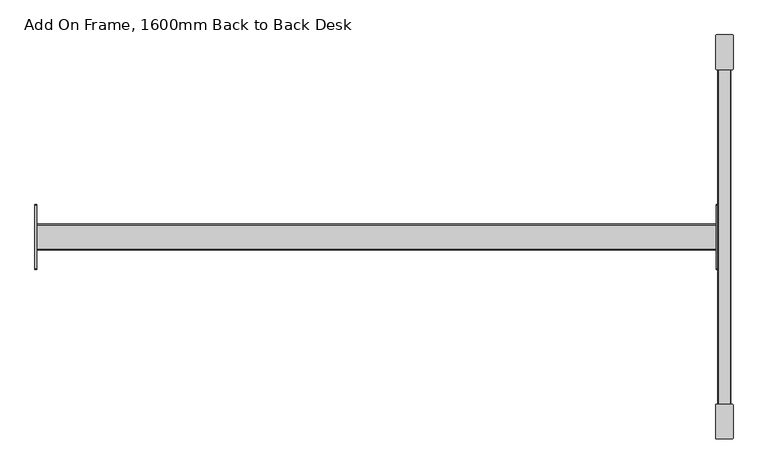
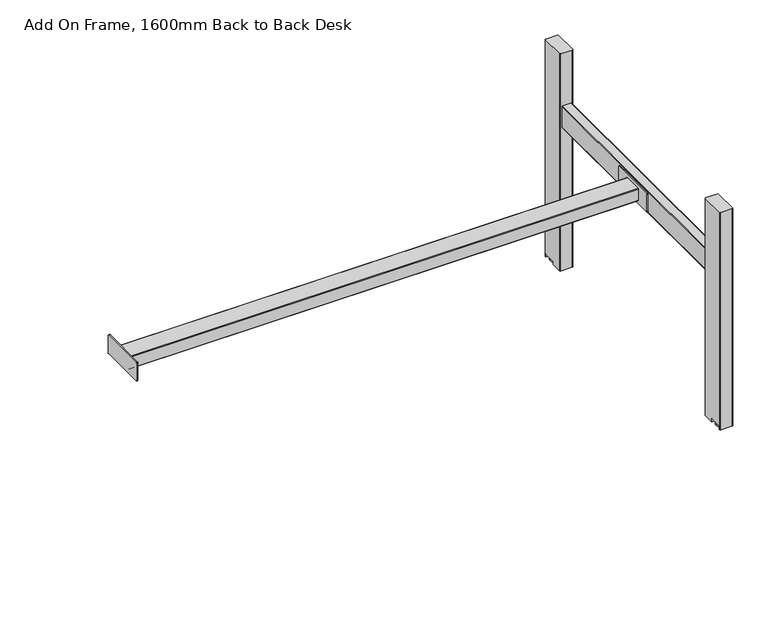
"""IFC4 building model written with IfcOpenShell, lengths in millimetres: furniture geometry, DBLTD_TheSenatorGroup_OffcDsks_Workbase_BackToBack_AddOnFrame : Add On Frame, 1600mm Back to Back Desk."""

import ifcopenshell
import ifcopenshell.guid

model = None  # the IFC model being written
_history = None  # IfcOwnerHistory: only IFC2X3 demands one
_inside = {}  # id of a spatial element -> (the spatial element, [elements in it])
_under = {}  # id of a project, library or spatial element -> (it, [spatial elements below it])
_declared = {}  # id of a project -> (the project, [libraries it declares])
_typed = {}  # id of a type object -> (the type object, [elements of that type])
_made_of = {}  # id of a material, layer set ... -> (it, [elements and type objects made of it])


def new_model(schema):
    """Start an empty IFC model of exactly this schema.

    Asked for "IFC4X3", IfcOpenShell would pick the latest addendum, in which some entities
    have other attributes; the version numbers below select the first issue.
    IFC2X3 requires an IfcOwnerHistory on every rooted entity: one is made here for all.
    """
    global model, _history
    if schema == "IFC4X3":
        model = ifcopenshell.file(schema_version=(4, 3, 0, 0))
    else:
        model = ifcopenshell.file(schema=schema)
    _inside.clear()
    _under.clear()
    _declared.clear()
    _typed.clear()
    _made_of.clear()
    _history = None
    if model.schema == "IFC2X3":
        org = make("IfcOrganization", Name="unknown")
        user = make(
            "IfcPersonAndOrganization",
            ThePerson=make("IfcPerson", FamilyName="unknown"),
            TheOrganization=org,
        )
        app = make(
            "IfcApplication",
            ApplicationDeveloper=org,
            Version="unknown",
            ApplicationFullName="unknown",
            ApplicationIdentifier="unknown",
        )
        _history = make(
            "IfcOwnerHistory",
            OwningUser=user,
            OwningApplication=app,
            ChangeAction="ADDED",
            CreationDate=0,
        )
    return model


def make(cls, **values):
    """One entity of the class cls with the attributes given. An attribute that is None is left unset."""
    return model.create_entity(
        cls, **{name: value for name, value in values.items() if value is not None}
    )


def rooted(cls, **values):
    """An entity with a GlobalId (a new one), such as an element, a storey or a relation."""
    return make(cls, GlobalId=ifcopenshell.guid.new(), OwnerHistory=_history, **values)


def si_unit(unit_type, name, prefix=None):
    """IfcSIUnit, for example si_unit("LENGTHUNIT", "METRE", prefix="MILLI")."""
    return make("IfcSIUnit", UnitType=unit_type, Prefix=prefix, Name=name)


def assignment(units):
    """IfcUnitAssignment: the units of a project."""
    return None if units is None else make("IfcUnitAssignment", Units=units)


def point(xyz):
    """IfcCartesianPoint."""
    return None if xyz is None else make("IfcCartesianPoint", Coordinates=xyz)


def direction(xyz):
    """IfcDirection."""
    return None if xyz is None else make("IfcDirection", DirectionRatios=xyz)


def frame(location, z_axis=None, x_axis=None):
    """IfcAxis2Placement3D, a coordinate frame: its origin and axes. An axis left out is left unset."""
    return make(
        "IfcAxis2Placement3D",
        Location=point(location),
        Axis=direction(z_axis),
        RefDirection=direction(x_axis),
    )


def frame_2d(location, x_axis=None):
    """IfcAxis2Placement2D, a coordinate frame in the plane: its origin and x axis."""
    return make(
        "IfcAxis2Placement2D", Location=point(location), RefDirection=direction(x_axis)
    )


def origin():
    """The frame at (0, 0, 0) with its axes left unset."""
    return frame((0.0, 0.0, 0.0))


def origin_with_axes():
    """The frame at (0, 0, 0) with the z axis (0, 0, 1) and the x axis (1, 0, 0) written out."""
    return frame((0.0, 0.0, 0.0), z_axis=(0.0, 0.0, 1.0), x_axis=(1.0, 0.0, 0.0))


def place(relative_to, where):
    """IfcLocalPlacement: puts the frame where relative to a parent placement (None: the world)."""
    return make(
        "IfcLocalPlacement", PlacementRelTo=relative_to, RelativePlacement=where
    )


def context(
    kind, dimensions, precision=None, world=None, true_north=None, identifier=None
):
    """IfcGeometricRepresentationContext, for example the 3D "Model" context."""
    return make(
        "IfcGeometricRepresentationContext",
        ContextIdentifier=identifier,
        ContextType=kind,
        CoordinateSpaceDimension=dimensions,
        Precision=precision,
        WorldCoordinateSystem=world,
        TrueNorth=true_north,
    )


def project(units=None, contexts=None):
    """IfcProject with its units and contexts."""
    return rooted(
        "IfcProject",
        Name="project",
        RepresentationContexts=contexts,
        UnitsInContext=assignment(units),
    )


def spatial(cls, under=None, at=None, **own):
    """A site, building, storey or space (cls), placed at a placement, below another one or the project."""
    s = rooted(cls, ObjectPlacement=at, **own)
    if under is not None:
        _under.setdefault(under.id(), (under, []))[1].append(s)
    return s


def polyline(points):
    """IfcPolyline through the points."""
    return make("IfcPolyline", Points=[point(p) for p in points])


def circle_curve(where, radius):
    """IfcCircle in the frame where."""
    return make("IfcCircle", Position=where, Radius=radius)


def trimmed(basis, trim1, trim2, sense, master):
    """IfcTrimmedCurve: the piece of a basis curve between two trims."""
    return make(
        "IfcTrimmedCurve",
        BasisCurve=basis,
        Trim1=trim1,
        Trim2=trim2,
        SenseAgreement=sense,
        MasterRepresentation=master,
    )


def segment(curve, same_sense, transition):
    """IfcCompositeCurveSegment."""
    return make(
        "IfcCompositeCurveSegment",
        Transition=transition,
        SameSense=same_sense,
        ParentCurve=curve,
    )


def composite_curve(segments, self_intersect=None):
    """IfcCompositeCurve: segments joined end to end."""
    return make("IfcCompositeCurve", Segments=segments, SelfIntersect=self_intersect)


def outline(outer, holes=None, kind="AREA"):
    """IfcArbitraryClosedProfileDef: a profile drawn as a closed curve; with holes, ...WithVoids."""
    if holes is None:
        return make("IfcArbitraryClosedProfileDef", ProfileType=kind, OuterCurve=outer)
    return make(
        "IfcArbitraryProfileDefWithVoids",
        ProfileType=kind,
        OuterCurve=outer,
        InnerCurves=holes,
    )


def extrude(swept, where, along, depth):
    """IfcExtrudedAreaSolid: the profile swept, set in the frame where, extruded along a direction by depth."""
    return make(
        "IfcExtrudedAreaSolid",
        SweptArea=swept,
        Position=where,
        ExtrudedDirection=direction(along),
        Depth=depth,
    )


def shape(context_of_items, identifier, shape_type, items):
    """IfcShapeRepresentation: the items that make up one representation, for example the "Body"."""
    return make(
        "IfcShapeRepresentation",
        ContextOfItems=context_of_items,
        RepresentationIdentifier=identifier,
        RepresentationType=shape_type,
        Items=items,
    )


def source(mapping_origin, context_of_items, identifier, shape_type, items):
    """IfcRepresentationMap: a shape defined once, which mapped items show again and again."""
    return make(
        "IfcRepresentationMap",
        MappingOrigin=mapping_origin,
        MappedRepresentation=shape(context_of_items, identifier, shape_type, items),
    )


def transform(
    local_origin,
    x_axis=None,
    y_axis=None,
    z_axis=None,
    scale=None,
    scale2=None,
    scale3=None,
    uniform=True,
):
    """IfcCartesianTransformationOperator3D, or its non-uniform kind. x_axis, y_axis, z_axis: its Axis1, 2, 3."""
    if uniform:
        return make(
            "IfcCartesianTransformationOperator3D",
            Axis1=direction(x_axis),
            Axis2=direction(y_axis),
            LocalOrigin=point(local_origin),
            Scale=scale,
            Axis3=direction(z_axis),
        )
    return make(
        "IfcCartesianTransformationOperator3DnonUniform",
        Axis1=direction(x_axis),
        Axis2=direction(y_axis),
        LocalOrigin=point(local_origin),
        Scale=scale,
        Axis3=direction(z_axis),
        Scale2=scale2,
        Scale3=scale3,
    )


def mapped(mapping_source, mapping_target):
    """IfcMappedItem: shows the shape of a source again, moved by a transform."""
    return make(
        "IfcMappedItem", MappingSource=mapping_source, MappingTarget=mapping_target
    )


def made_of(thing, what):
    """Note that an element or type object is made of a material, layer set ...; save() writes the relation."""
    if what is not None:
        _made_of.setdefault(what.id(), (what, []))[1].append(thing)
    return thing


def element(
    cls,
    number,
    at=None,
    inside=None,
    cuts=None,
    type_object=None,
    material=None,
    context=None,
    identifier="Body",
    shape_type=None,
    held_by="IfcProductDefinitionShape",
    body=None,
    shapes=None,
    **own,
):
    """One element of the class cls, such as IfcWall. Its Tag is "e" and its number.

    at: its placement. inside: the storey or other place that contains it. cuts: it is an
    opening in that element (IfcRelVoidsElement). A single representation is given by context,
    identifier, shape_type and body (its items); several are given by shapes. held_by: the class
    of the entity that holds the representations. save() writes the other relations.
    """
    e = rooted(cls, Tag="e%d" % number, ObjectPlacement=at, **own)
    if body is not None:
        shapes = [shape(context, identifier, shape_type, body)]
    if shapes is not None:
        e.Representation = make(held_by, Representations=shapes)
    if inside is not None:
        _inside.setdefault(inside.id(), (inside, []))[1].append(e)
    if cuts is not None:
        rooted(
            "IfcRelVoidsElement", RelatingBuildingElement=cuts, RelatedOpeningElement=e
        )
    if type_object is not None:
        _typed.setdefault(type_object.id(), (type_object, []))[1].append(e)
    return made_of(e, material)


def aggregate(whole, parts):
    """IfcRelAggregates: a whole, such as a stair, and the parts it consists of."""
    return rooted("IfcRelAggregates", RelatingObject=whole, RelatedObjects=parts)


def save(model, path):
    """Write the relations noted so far, then the file.

    IfcRelAggregates (storeys below a building ...), IfcRelContainedInSpatialStructure (elements
    in a storey), IfcRelDefinesByType, IfcRelAssociatesMaterial and IfcRelDeclares: one each for
    every whole, place, type object, material and project.
    """
    for whole, parts in _under.values():
        aggregate(whole, parts)
    for where, things in _inside.values():
        rooted(
            "IfcRelContainedInSpatialStructure",
            RelatedElements=things,
            RelatingStructure=where,
        )
    for kind, things in _typed.values():
        rooted("IfcRelDefinesByType", RelatedObjects=things, RelatingType=kind)
    for what, things in _made_of.values():
        rooted("IfcRelAssociatesMaterial", RelatedObjects=things, RelatingMaterial=what)
    for by, libraries in _declared.values():
        rooted("IfcRelDeclares", RelatingContext=by, RelatedDefinitions=libraries)
    model.write(path)


def plane_surface(at):
    """IfcPlane: the flat surface through the origin of the frame at, square to its z axis."""
    return make("IfcPlane", Position=at)


def cylinder_surface(at, radius):
    """IfcCylindricalSurface: all points at the distance radius from the z axis of the frame at."""
    return make("IfcCylindricalSurface", Position=at, Radius=radius)


def advanced_brep(points, edges, surfaces, faces):
    """IfcAdvancedBrep: a solid bounded by faces that lie on surfaces and meet in shared edges.

    An edge is (start, end): straight between two places in points (the first is 0);
    or (start, end, curve); or (start, end, curve, False) where it runs against its curve.
    A face is (place in surfaces, loops), or (place, loops, False) where it looks against
    its surface's normal. A loop lists edges by number (the first is 1), with a minus sign
    where the edge is run from its end to its start. The first loop is the outer one.
    """
    corners = [point(p) for p in points]
    vertices = [make("IfcVertexPoint", VertexGeometry=c) for c in corners]
    made = []
    for start, end, *more in edges:
        made.append(
            make(
                "IfcEdgeCurve",
                EdgeStart=vertices[start],
                EdgeEnd=vertices[end],
                EdgeGeometry=more[0] if more else make("IfcPolyline", Points=[corners[start], corners[end]]),
                SameSense=more[1] if len(more) > 1 else True,
            )
        )
    hull = []
    for where, loops, *sense in faces:
        bounds = []
        for j, loop in enumerate(loops):
            ring = [make("IfcOrientedEdge", EdgeElement=made[abs(k) - 1], Orientation=k > 0) for k in loop]
            bounds.append(
                make(
                    "IfcFaceOuterBound" if j == 0 else "IfcFaceBound",
                    Bound=make("IfcEdgeLoop", EdgeList=ring),
                    Orientation=True,
                )
            )
        hull.append(make("IfcAdvancedFace", Bounds=bounds, FaceSurface=surfaces[where], SameSense=sense[0] if sense else True))
    return make("IfcAdvancedBrep", Outer=make("IfcClosedShell", CfsFaces=hull))


def add_on_frame_1600mm_back_to_back_desk_692f1a0c(model_context):
    return source(origin(), model_context, "Body", "SolidModel", [
        advanced_brep(
        [(857.5233383, 1245.6110001, 11.0000074), (897.5, 1245.6110001, 11.0000074), (897.5, 1245.6110001, 0.0), (857.5233383, 1245.6110001, 0.0), (897.5, 1285.6110001, 11.0000074), (857.5233383, 1285.6110001, 11.0000074), (857.5233383, 1285.6110001, 0.0), (897.5, 1285.6110001, 0.0), (897.5, 1288.100174, 704.9999237), (895.5, 1290.100174, 704.9999237), (859.5233383, 1290.100174, 704.9999237), (857.5233383, 1288.100174, 704.9999237), (857.5233383, 1212.100174, 704.9999237), (859.5233383, 1210.100174, 704.9999237), (895.5, 1210.100174, 704.9999237), (897.5, 1212.100174, 704.9999237), (897.5, 1212.100174, 0.0), (895.5, 1210.100174, 0.0), (859.5233383, 1210.100174, 0.0), (857.5233383, 1212.100174, 0.0), (857.5233383, 1288.100174, 0.0), (859.5233383, 1290.100174, 0.0), (895.5, 1290.100174, 0.0), (897.5, 1288.100174, 0.0)],
        [
            (0, 1),
            (1, 2),
            (2, 3),
            (3, 0),
            (4, 5),
            (5, 6),
            (6, 7),
            (7, 4),
            (0, 5),
            (4, 1),
            (8, 9, circle_curve(frame((895.5, 1288.100174, 704.9999237), z_axis=(0.0, 0.0, 1.0), x_axis=(-1.0, 0.0, 0.0)), 2.0)),
            (9, 10),
            (10, 11, circle_curve(frame((859.5233383, 1288.100174, 704.9999237), z_axis=(0.0, 0.0, 1.0), x_axis=(-1.0, 0.0, 0.0)), 2.0)),
            (11, 12),
            (12, 13, circle_curve(frame((859.5233383, 1212.100174, 704.9999237), z_axis=(0.0, 0.0, 1.0), x_axis=(-1.0, 0.0, 0.0)), 2.0)),
            (13, 14),
            (14, 15, circle_curve(frame((895.5, 1212.100174, 704.9999237), z_axis=(0.0, 0.0, 1.0), x_axis=(-1.0, 0.0, 0.0)), 2.0)),
            (15, 8),
            (16, 17, circle_curve(frame((895.5, 1212.100174, 0.0), z_axis=(0.0, 0.0, -1.0), x_axis=(-1.0, 0.0, 0.0)), 2.0)),
            (17, 18),
            (18, 19, circle_curve(frame((859.5233383, 1212.100174, 0.0), z_axis=(0.0, 0.0, -1.0), x_axis=(-1.0, 0.0, 0.0)), 2.0)),
            (19, 3),
            (2, 16),
            (20, 21, circle_curve(frame((859.5233383, 1288.100174, 0.0), z_axis=(0.0, 0.0, -1.0), x_axis=(-1.0, 0.0, 0.0)), 2.0)),
            (21, 22),
            (22, 23, circle_curve(frame((895.5, 1288.100174, 0.0), z_axis=(0.0, 0.0, -1.0), x_axis=(-1.0, 0.0, 0.0)), 2.0)),
            (23, 7),
            (6, 20),
            (15, 16),
            (23, 8),
            (14, 17),
            (13, 18),
            (12, 19),
            (11, 20),
            (10, 21),
            (9, 22),
        ],
        [
            plane_surface(frame((897.5, 1245.6110001, 11.0000074), z_axis=(0.0, 1.0, 0.0), x_axis=(-1.0, 0.0, 0.0))),
            plane_surface(frame((897.5, 1285.6110001, 0.0), z_axis=(0.0, -1.0, 0.0), x_axis=(-1.0, 0.0, 0.0))),
            plane_surface(frame((897.5, 1285.6110001, 11.0000074), z_axis=(0.0, 0.0, -1.0), x_axis=(-1.0, 0.0, 0.0))),
            plane_surface(frame((893.5, 1288.100174, 704.9999237), z_axis=(0.0, 0.0, 1.0), x_axis=(0.0, -1.0, 0.0))),
            plane_surface(frame((893.5, 1288.100174, 0.0), z_axis=(0.0, 0.0, -1.0), x_axis=(0.0, 1.0, 0.0))),
            plane_surface(frame((897.5, 1212.100174, 704.9999237), z_axis=(1.0, 0.0, 0.0), x_axis=(0.0, 0.0, -1.0))),
            cylinder_surface(frame((895.5, 1212.100174, 0.0), z_axis=(0.0, 0.0, 1.0), x_axis=(-1.0, 0.0, 0.0)), 2.0),
            plane_surface(frame((859.5233383, 1210.100174, 704.9999237), z_axis=(0.0, -1.0, 0.0), x_axis=(0.0, 0.0, -1.0))),
            cylinder_surface(frame((859.5233383, 1212.100174, 0.0), z_axis=(0.0, 0.0, 1.0), x_axis=(-1.0, 0.0, 0.0)), 2.0),
            plane_surface(frame((857.5233383, 1288.100174, 704.9999237), z_axis=(-1.0, 0.0, 0.0), x_axis=(0.0, 0.0, -1.0))),
            cylinder_surface(frame((859.5233383, 1288.100174, 0.0), z_axis=(0.0, 0.0, 1.0), x_axis=(-1.0, 0.0, 0.0)), 2.0),
            plane_surface(frame((895.5, 1290.100174, 704.9999237), z_axis=(0.0, 1.0, 0.0), x_axis=(0.0, 0.0, -1.0))),
            cylinder_surface(frame((895.5, 1288.100174, 0.0), z_axis=(0.0, 0.0, 1.0), x_axis=(-1.0, 0.0, 0.0)), 2.0),
        ],
        [
            (0, [[1, 2, 3, 4]]),
            (1, [[5, 6, 7, 8]]),
            (2, [[-1, 9, -5, 10]]),
            (3, [[11, 12, 13, 14, 15, 16, 17, 18]]),
            (4, [[19, 20, 21, 22, -3, 23]]),
            (4, [[24, 25, 26, 27, -7, 28]]),
            (5, [[-18, 29, -23, -2, -10, -8, -27, 30]]),
            (6, [[-17, 31, -19, -29]]),
            (7, [[-16, 32, -20, -31]]),
            (8, [[-15, 33, -21, -32]]),
            (9, [[-14, 34, -28, -6, -9, -4, -22, -33]]),
            (10, [[-13, 35, -24, -34]]),
            (11, [[-12, 36, -25, -35]]),
            (12, [[-11, -30, -26, -36]]),
        ],
    ),
        advanced_brep(
        [(857.5233383, 404.5893478, 11.0000074), (897.5, 404.5893478, 11.0000074), (897.5, 364.5893478, 11.0000074), (857.5233383, 364.5893478, 11.0000074), (897.5, 364.5893478, 0.0), (857.5233383, 364.5893478, 0.0), (857.5233383, 404.5893478, 0.0), (897.5, 404.5893478, 0.0), (897.5, 362.100174, 704.9999237), (897.5, 438.100174, 704.9999237), (895.5, 440.100174, 704.9999237), (859.5233383, 440.100174, 704.9999237), (857.5233383, 438.100174, 704.9999237), (857.5233383, 362.100174, 704.9999237), (859.5233383, 360.100174, 704.9999237), (895.5, 360.100174, 704.9999237), (897.5, 362.100174, 0.0), (895.5, 360.100174, 0.0), (859.5233383, 360.100174, 0.0), (857.5233383, 362.100174, 0.0), (857.5233383, 438.100174, 0.0), (859.5233383, 440.100174, 0.0), (895.5, 440.100174, 0.0), (897.5, 438.100174, 0.0)],
        [
            (0, 1),
            (1, 2),
            (2, 3),
            (3, 0),
            (2, 4),
            (4, 5),
            (5, 3),
            (0, 6),
            (6, 7),
            (7, 1),
            (8, 9),
            (9, 10, circle_curve(frame((895.5, 438.100174, 704.9999237), z_axis=(0.0, 0.0, 1.0), x_axis=(-1.0, 0.0, 0.0)), 2.0)),
            (10, 11),
            (11, 12, circle_curve(frame((859.5233383, 438.100174, 704.9999237), z_axis=(0.0, 0.0, 1.0), x_axis=(-1.0, 0.0, 0.0)), 2.0)),
            (12, 13),
            (13, 14, circle_curve(frame((859.5233383, 362.100174, 704.9999237), z_axis=(0.0, 0.0, 1.0), x_axis=(-1.0, 0.0, 0.0)), 2.0)),
            (14, 15),
            (15, 8, circle_curve(frame((895.5, 362.100174, 704.9999237), z_axis=(0.0, 0.0, 1.0), x_axis=(-1.0, 0.0, 0.0)), 2.0)),
            (16, 17, circle_curve(frame((895.5, 362.100174, 0.0), z_axis=(0.0, 0.0, -1.0), x_axis=(-1.0, 0.0, 0.0)), 2.0)),
            (17, 18),
            (18, 19, circle_curve(frame((859.5233383, 362.100174, 0.0), z_axis=(0.0, 0.0, -1.0), x_axis=(-1.0, 0.0, 0.0)), 2.0)),
            (19, 5),
            (4, 16),
            (20, 21, circle_curve(frame((859.5233383, 438.100174, 0.0), z_axis=(0.0, 0.0, -1.0), x_axis=(-1.0, 0.0, 0.0)), 2.0)),
            (21, 22),
            (22, 23, circle_curve(frame((895.5, 438.100174, 0.0), z_axis=(0.0, 0.0, -1.0), x_axis=(-1.0, 0.0, 0.0)), 2.0)),
            (23, 7),
            (6, 20),
            (15, 17),
            (16, 8),
            (14, 18),
            (13, 19),
            (12, 20),
            (11, 21),
            (10, 22),
            (9, 23),
        ],
        [
            plane_surface(frame((897.5, 404.5893478, 11.0000074), z_axis=(0.0, 0.0, -1.0), x_axis=(-1.0, 0.0, 0.0))),
            plane_surface(frame((897.5, 364.5893478, 11.0000074), z_axis=(0.0, 1.0, 0.0), x_axis=(-1.0, 0.0, 0.0))),
            plane_surface(frame((897.5, 404.5893478, 0.0), z_axis=(0.0, -1.0, 0.0), x_axis=(-1.0, 0.0, 0.0))),
            plane_surface(frame((893.5, 1288.100174, 704.9999237), z_axis=(0.0, 0.0, 1.0), x_axis=(0.0, -1.0, 0.0))),
            plane_surface(frame((893.5, 1288.100174, 0.0), z_axis=(0.0, 0.0, -1.0), x_axis=(0.0, 1.0, 0.0))),
            cylinder_surface(frame((895.5, 362.100174, 0.0), z_axis=(0.0, 0.0, 1.0), x_axis=(-1.0, 0.0, 0.0)), 2.0),
            plane_surface(frame((859.5233383, 360.100174, 704.9999237), z_axis=(0.0, -1.0, 0.0), x_axis=(0.0, 0.0, -1.0))),
            cylinder_surface(frame((859.5233383, 362.100174, 0.0), z_axis=(0.0, 0.0, 1.0), x_axis=(-1.0, 0.0, 0.0)), 2.0),
            plane_surface(frame((857.5233383, 438.100174, 704.9999237), z_axis=(-1.0, 0.0, 0.0), x_axis=(0.0, 0.0, -1.0))),
            cylinder_surface(frame((859.5233383, 438.100174, 0.0), z_axis=(0.0, 0.0, 1.0), x_axis=(-1.0, 0.0, 0.0)), 2.0),
            plane_surface(frame((895.5, 440.100174, 704.9999237), z_axis=(0.0, 1.0, 0.0), x_axis=(0.0, 0.0, -1.0))),
            cylinder_surface(frame((895.5, 438.100174, 0.0), z_axis=(0.0, 0.0, 1.0), x_axis=(-1.0, 0.0, 0.0)), 2.0),
            plane_surface(frame((897.5, 362.100174, 704.9999237), z_axis=(1.0, 0.0, 0.0), x_axis=(0.0, 0.0, -1.0))),
        ],
        [
            (0, [[1, 2, 3, 4]]),
            (1, [[-3, 5, 6, 7]]),
            (2, [[-1, 8, 9, 10]]),
            (3, [[11, 12, 13, 14, 15, 16, 17, 18]]),
            (4, [[19, 20, 21, 22, -6, 23]]),
            (4, [[24, 25, 26, 27, -9, 28]]),
            (5, [[-18, 29, -19, 30]]),
            (6, [[-17, 31, -20, -29]]),
            (7, [[-16, 32, -21, -31]]),
            (8, [[-15, 33, -28, -8, -4, -7, -22, -32]]),
            (9, [[-14, 34, -24, -33]]),
            (10, [[-13, 35, -25, -34]]),
            (11, [[-12, 36, -26, -35]]),
            (12, [[-11, -30, -23, -5, -2, -10, -27, -36]]),
        ],
    ),
        extrude(outline(composite_curve([segment(trimmed(circle_curve(frame_2d((532.9999619, 864.576046)), 2.0), [point((534.9999619, 864.576046))], [point((532.9999619, 862.576046))], False, "CARTESIAN"), True, "CONTINUOUS"), segment(polyline([(532.9999619, 862.576046), (466.9999619, 862.576046)]), True, "CONTINUOUS"), segment(trimmed(circle_curve(frame_2d((466.9999619, 864.576046)), 2.0), [point((466.9999619, 862.576046))], [point((464.9999619, 864.576046))], False, "CARTESIAN"), True, "CONTINUOUS"), segment(polyline([(464.9999619, 864.576046), (464.9999619, 890.576046)]), True, "CONTINUOUS"), segment(trimmed(circle_curve(frame_2d((466.9999619, 890.576046)), 2.0), [point((464.9999619, 890.576046))], [point((466.9999619, 892.576046))], False, "CARTESIAN"), True, "CONTINUOUS"), segment(polyline([(466.9999619, 892.576046), (532.9999619, 892.576046)]), True, "CONTINUOUS"), segment(trimmed(circle_curve(frame_2d((532.9999619, 890.576046)), 2.0), [point((532.9999619, 892.576046))], [point((534.9999619, 890.576046))], False, "CARTESIAN"), True, "CONTINUOUS"), segment(polyline([(534.9999619, 890.576046), (534.9999619, 864.576046)]), True, "CONTINUOUS")], self_intersect=False)), frame((0.0, 440.100174, 0.0), z_axis=(0.0, 1.0, 0.0), x_axis=(0.0, 0.0, 1.0)), (0.0, 0.0, 1.0), 770.0),
        extrude(outline(composite_curve([segment(trimmed(circle_curve(frame_2d((877.3807335, 1265.5673529)), 18.0), [point((895.3807335, 1265.5673529))], [point((859.3807335, 1265.5673529))], False, "CARTESIAN"), True, "CONTINUOUS"), segment(trimmed(circle_curve(frame_2d((877.3807335, 1265.5673529)), 18.0), [point((859.3807335, 1265.5673529))], [point((895.3807335, 1265.5673529))], False, "CARTESIAN"), True, "CONTINUOUS")], self_intersect=False)), origin_with_axes(), (0.0, 0.0, 1.0), 10.4220208),
        extrude(outline(composite_curve([segment(trimmed(circle_curve(frame_2d((877.3807335, 384.632995)), 18.0), [point((895.3807335, 384.632995))], [point((859.3807335, 384.632995))], False, "CARTESIAN"), True, "CONTINUOUS"), segment(trimmed(circle_curve(frame_2d((877.3807335, 384.632995)), 18.0), [point((859.3807335, 384.632995))], [point((895.3807335, 384.632995))], False, "CARTESIAN"), True, "CONTINUOUS")], self_intersect=False)), origin_with_axes(), (0.0, 0.0, 1.0), 10.4220208),
        extrude(outline(composite_curve([segment(trimmed(circle_curve(frame_2d((797.100174, 481.9999619)), 2.0), [point((797.100174, 479.9999619))], [point((795.100174, 481.9999619))], False, "CARTESIAN"), True, "CONTINUOUS"), segment(polyline([(795.100174, 481.9999619), (795.100174, 518.0)]), True, "CONTINUOUS"), segment(trimmed(circle_curve(frame_2d((797.100174, 518.0)), 2.0), [point((795.100174, 518.0))], [point((797.100174, 520.0))], False, "CARTESIAN"), True, "CONTINUOUS"), segment(polyline([(797.100174, 520.0), (853.100174, 520.0)]), True, "CONTINUOUS"), segment(trimmed(circle_curve(frame_2d((853.100174, 518.0)), 2.0), [point((853.100174, 520.0))], [point((855.100174, 518.0))], False, "CARTESIAN"), True, "CONTINUOUS"), segment(polyline([(855.100174, 518.0), (855.100174, 481.9999619)]), True, "CONTINUOUS"), segment(trimmed(circle_curve(frame_2d((853.100174, 481.9999619)), 2.0), [point((855.100174, 481.9999619))], [point((853.100174, 479.9999619))], False, "CARTESIAN"), True, "CONTINUOUS"), segment(polyline([(853.100174, 479.9999619), (797.100174, 479.9999619)]), True, "CONTINUOUS")], self_intersect=False)), frame((-703.4239006, 0.0, 0.0), z_axis=(1.0, 0.0, 0.0), x_axis=(0.0, 1.0, 0.0)), (0.0, 0.0, 1.0), 1561.9238472),
        extrude(outline(composite_curve([segment(trimmed(circle_curve(frame_2d((752.100174, 471.9999619)), 2.0), [point((752.100174, 469.9999619))], [point((750.100174, 471.9999619))], False, "CARTESIAN"), True, "CONTINUOUS"), segment(polyline([(750.100174, 471.9999619), (750.100174, 528.0797416)]), True, "CONTINUOUS"), segment(trimmed(circle_curve(frame_2d((752.100174, 528.0797416)), 2.0), [point((750.100174, 528.0797416))], [point((752.100174, 530.0797416))], False, "CARTESIAN"), True, "CONTINUOUS"), segment(polyline([(752.100174, 530.0797416), (898.100174, 530.0797416)]), True, "CONTINUOUS"), segment(trimmed(circle_curve(frame_2d((898.100174, 528.0797416)), 2.0), [point((898.100174, 530.0797416))], [point((900.100174, 528.0797416))], False, "CARTESIAN"), True, "CONTINUOUS"), segment(polyline([(900.100174, 528.0797416), (900.100174, 471.9999619)]), True, "CONTINUOUS"), segment(trimmed(circle_curve(frame_2d((898.100174, 471.9999619)), 2.0), [point((900.100174, 471.9999619))], [point((898.100174, 469.9999619))], False, "CARTESIAN"), True, "CONTINUOUS"), segment(polyline([(898.100174, 469.9999619), (752.100174, 469.9999619)]), True, "CONTINUOUS")], self_intersect=False)), frame((858.4999466, 0.0, 0.0), z_axis=(1.0, 0.0, 0.0), x_axis=(0.0, 1.0, 0.0)), (0.0, 0.0, 1.0), 4.0760994),
        extrude(outline(composite_curve([segment(trimmed(circle_curve(frame_2d((752.100174, 471.9999619)), 2.0), [point((752.100174, 469.9999619))], [point((750.100174, 471.9999619))], False, "CARTESIAN"), True, "CONTINUOUS"), segment(polyline([(750.100174, 471.9999619), (750.100174, 528.0797416)]), True, "CONTINUOUS"), segment(trimmed(circle_curve(frame_2d((752.100174, 528.0797416)), 2.0), [point((750.100174, 528.0797416))], [point((752.100174, 530.0797416))], False, "CARTESIAN"), True, "CONTINUOUS"), segment(polyline([(752.100174, 530.0797416), (898.100174, 530.0797416)]), True, "CONTINUOUS"), segment(trimmed(circle_curve(frame_2d((898.100174, 528.0797416)), 2.0), [point((898.100174, 530.0797416))], [point((900.100174, 528.0797416))], False, "CARTESIAN"), True, "CONTINUOUS"), segment(polyline([(900.100174, 528.0797416), (900.100174, 471.9999619)]), True, "CONTINUOUS"), segment(trimmed(circle_curve(frame_2d((898.100174, 471.9999619)), 2.0), [point((900.100174, 471.9999619))], [point((898.100174, 469.9999619))], False, "CARTESIAN"), True, "CONTINUOUS"), segment(polyline([(898.100174, 469.9999619), (752.100174, 469.9999619)]), True, "CONTINUOUS")], self_intersect=False)), frame((-707.5, 0.0, 0.0), z_axis=(1.0, 0.0, 0.0), x_axis=(0.0, 1.0, 0.0)), (0.0, 0.0, 1.0), 4.0760994),
    ])


if __name__ == "__main__":
    model = new_model("IFC4")
    model_context = context("Model", 3, world=origin())
    ifc_project = project(units=[si_unit("LENGTHUNIT", "METRE", prefix="MILLI")], contexts=[model_context])
    site = spatial("IfcSite", under=ifc_project)
    building = spatial("IfcBuilding", under=site)
    placement = place(None, origin())
    add_on_frame_1600mm_back_to_back_desk_shape = add_on_frame_1600mm_back_to_back_desk_692f1a0c(model_context)
    element("IfcFurniture", 1, ObjectType="DBLTD_TheSenatorGroup_OffcDsks_Workbase_BackToBack_AddOnFrame : Add On Frame, 1600mm Back to Back Desk", at=placement, inside=building, context=model_context, shape_type="MappedRepresentation", body=[
        mapped(add_on_frame_1600mm_back_to_back_desk_shape, transform((0.0, 0.0, 0.0), x_axis=(1.0, 0.0, 0.0), y_axis=(0.0, 1.0, 0.0), z_axis=(0.0, 0.0, 1.0))),
    ])
    save(model, "model.ifc")
